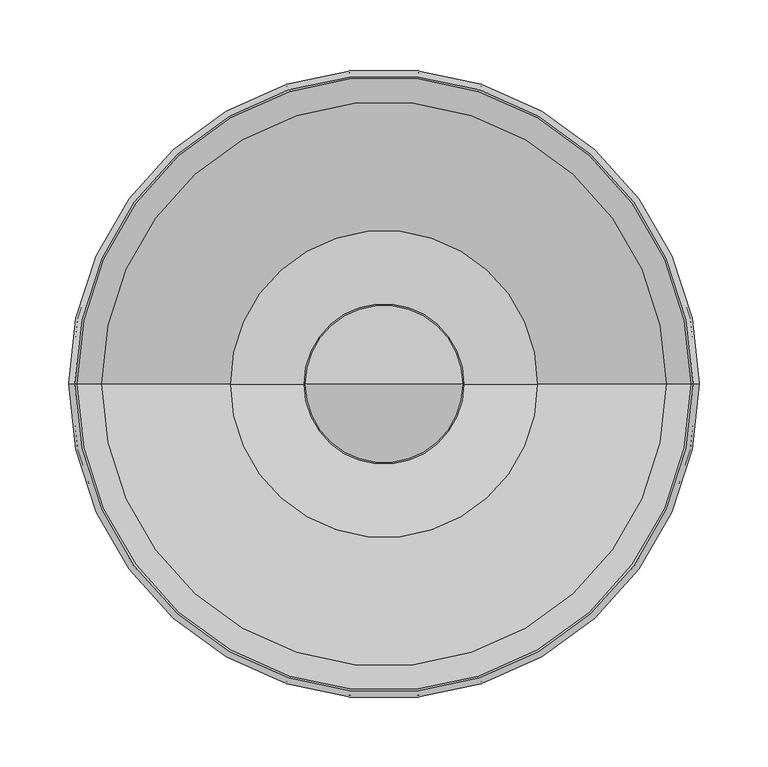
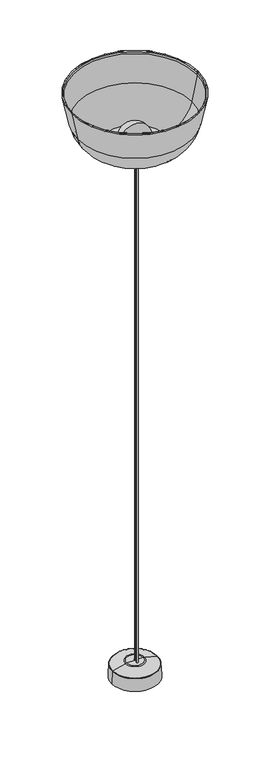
"""IFC4 building model written with IfcOpenShell, lengths in millimetres: light fixture geometry, RBW-Dram-Pendant : DR-M-PC."""

import ifcopenshell
import ifcopenshell.guid

model = None  # the IFC model being written
_history = None  # IfcOwnerHistory: only IFC2X3 demands one
_inside = {}  # id of a spatial element -> (the spatial element, [elements in it])
_under = {}  # id of a project, library or spatial element -> (it, [spatial elements below it])
_declared = {}  # id of a project -> (the project, [libraries it declares])
_typed = {}  # id of a type object -> (the type object, [elements of that type])
_made_of = {}  # id of a material, layer set ... -> (it, [elements and type objects made of it])


def new_model(schema):
    """Start an empty IFC model of exactly this schema.

    Asked for "IFC4X3", IfcOpenShell would pick the latest addendum, in which some entities
    have other attributes; the version numbers below select the first issue.
    IFC2X3 requires an IfcOwnerHistory on every rooted entity: one is made here for all.
    """
    global model, _history
    if schema == "IFC4X3":
        model = ifcopenshell.file(schema_version=(4, 3, 0, 0))
    else:
        model = ifcopenshell.file(schema=schema)
    _inside.clear()
    _under.clear()
    _declared.clear()
    _typed.clear()
    _made_of.clear()
    _history = None
    if model.schema == "IFC2X3":
        org = make("IfcOrganization", Name="unknown")
        user = make(
            "IfcPersonAndOrganization",
            ThePerson=make("IfcPerson", FamilyName="unknown"),
            TheOrganization=org,
        )
        app = make(
            "IfcApplication",
            ApplicationDeveloper=org,
            Version="unknown",
            ApplicationFullName="unknown",
            ApplicationIdentifier="unknown",
        )
        _history = make(
            "IfcOwnerHistory",
            OwningUser=user,
            OwningApplication=app,
            ChangeAction="ADDED",
            CreationDate=0,
        )
    return model


def make(cls, **values):
    """One entity of the class cls with the attributes given. An attribute that is None is left unset."""
    return model.create_entity(
        cls, **{name: value for name, value in values.items() if value is not None}
    )


def rooted(cls, **values):
    """An entity with a GlobalId (a new one), such as an element, a storey or a relation."""
    return make(cls, GlobalId=ifcopenshell.guid.new(), OwnerHistory=_history, **values)


def si_unit(unit_type, name, prefix=None):
    """IfcSIUnit, for example si_unit("LENGTHUNIT", "METRE", prefix="MILLI")."""
    return make("IfcSIUnit", UnitType=unit_type, Prefix=prefix, Name=name)


def assignment(units):
    """IfcUnitAssignment: the units of a project."""
    return None if units is None else make("IfcUnitAssignment", Units=units)


def point(xyz):
    """IfcCartesianPoint."""
    return None if xyz is None else make("IfcCartesianPoint", Coordinates=xyz)


def direction(xyz):
    """IfcDirection."""
    return None if xyz is None else make("IfcDirection", DirectionRatios=xyz)


def frame(location, z_axis=None, x_axis=None):
    """IfcAxis2Placement3D, a coordinate frame: its origin and axes. An axis left out is left unset."""
    return make(
        "IfcAxis2Placement3D",
        Location=point(location),
        Axis=direction(z_axis),
        RefDirection=direction(x_axis),
    )


def frame_2d(location, x_axis=None):
    """IfcAxis2Placement2D, a coordinate frame in the plane: its origin and x axis."""
    return make(
        "IfcAxis2Placement2D", Location=point(location), RefDirection=direction(x_axis)
    )


def origin():
    """The frame at (0, 0, 0) with its axes left unset."""
    return frame((0.0, 0.0, 0.0))


def place(relative_to, where):
    """IfcLocalPlacement: puts the frame where relative to a parent placement (None: the world)."""
    return make(
        "IfcLocalPlacement", PlacementRelTo=relative_to, RelativePlacement=where
    )


def context(
    kind, dimensions, precision=None, world=None, true_north=None, identifier=None
):
    """IfcGeometricRepresentationContext, for example the 3D "Model" context."""
    return make(
        "IfcGeometricRepresentationContext",
        ContextIdentifier=identifier,
        ContextType=kind,
        CoordinateSpaceDimension=dimensions,
        Precision=precision,
        WorldCoordinateSystem=world,
        TrueNorth=true_north,
    )


def project(units=None, contexts=None):
    """IfcProject with its units and contexts."""
    return rooted(
        "IfcProject",
        Name="project",
        RepresentationContexts=contexts,
        UnitsInContext=assignment(units),
    )


def spatial(cls, under=None, at=None, **own):
    """A site, building, storey or space (cls), placed at a placement, below another one or the project."""
    s = rooted(cls, ObjectPlacement=at, **own)
    if under is not None:
        _under.setdefault(under.id(), (under, []))[1].append(s)
    return s


def polyline(points):
    """IfcPolyline through the points."""
    return make("IfcPolyline", Points=[point(p) for p in points])


def circle_curve(where, radius):
    """IfcCircle in the frame where."""
    return make("IfcCircle", Position=where, Radius=radius)


def ellipse_curve(where, semi_axis1, semi_axis2):
    """IfcEllipse in the frame where."""
    return make(
        "IfcEllipse", Position=where, SemiAxis1=semi_axis1, SemiAxis2=semi_axis2
    )


def trimmed(basis, trim1, trim2, sense, master):
    """IfcTrimmedCurve: the piece of a basis curve between two trims."""
    return make(
        "IfcTrimmedCurve",
        BasisCurve=basis,
        Trim1=trim1,
        Trim2=trim2,
        SenseAgreement=sense,
        MasterRepresentation=master,
    )


def segment(curve, same_sense, transition):
    """IfcCompositeCurveSegment."""
    return make(
        "IfcCompositeCurveSegment",
        Transition=transition,
        SameSense=same_sense,
        ParentCurve=curve,
    )


def composite_curve(segments, self_intersect=None):
    """IfcCompositeCurve: segments joined end to end."""
    return make("IfcCompositeCurve", Segments=segments, SelfIntersect=self_intersect)


def outline(outer, holes=None, kind="AREA"):
    """IfcArbitraryClosedProfileDef: a profile drawn as a closed curve; with holes, ...WithVoids."""
    if holes is None:
        return make("IfcArbitraryClosedProfileDef", ProfileType=kind, OuterCurve=outer)
    return make(
        "IfcArbitraryProfileDefWithVoids",
        ProfileType=kind,
        OuterCurve=outer,
        InnerCurves=holes,
    )


def extrude(swept, where, along, depth):
    """IfcExtrudedAreaSolid: the profile swept, set in the frame where, extruded along a direction by depth."""
    return make(
        "IfcExtrudedAreaSolid",
        SweptArea=swept,
        Position=where,
        ExtrudedDirection=direction(along),
        Depth=depth,
    )


def shape(context_of_items, identifier, shape_type, items):
    """IfcShapeRepresentation: the items that make up one representation, for example the "Body"."""
    return make(
        "IfcShapeRepresentation",
        ContextOfItems=context_of_items,
        RepresentationIdentifier=identifier,
        RepresentationType=shape_type,
        Items=items,
    )


def source(mapping_origin, context_of_items, identifier, shape_type, items):
    """IfcRepresentationMap: a shape defined once, which mapped items show again and again."""
    return make(
        "IfcRepresentationMap",
        MappingOrigin=mapping_origin,
        MappedRepresentation=shape(context_of_items, identifier, shape_type, items),
    )


def transform(
    local_origin,
    x_axis=None,
    y_axis=None,
    z_axis=None,
    scale=None,
    scale2=None,
    scale3=None,
    uniform=True,
):
    """IfcCartesianTransformationOperator3D, or its non-uniform kind. x_axis, y_axis, z_axis: its Axis1, 2, 3."""
    if uniform:
        return make(
            "IfcCartesianTransformationOperator3D",
            Axis1=direction(x_axis),
            Axis2=direction(y_axis),
            LocalOrigin=point(local_origin),
            Scale=scale,
            Axis3=direction(z_axis),
        )
    return make(
        "IfcCartesianTransformationOperator3DnonUniform",
        Axis1=direction(x_axis),
        Axis2=direction(y_axis),
        LocalOrigin=point(local_origin),
        Scale=scale,
        Axis3=direction(z_axis),
        Scale2=scale2,
        Scale3=scale3,
    )


def mapped(mapping_source, mapping_target):
    """IfcMappedItem: shows the shape of a source again, moved by a transform."""
    return make(
        "IfcMappedItem", MappingSource=mapping_source, MappingTarget=mapping_target
    )


def made_of(thing, what):
    """Note that an element or type object is made of a material, layer set ...; save() writes the relation."""
    if what is not None:
        _made_of.setdefault(what.id(), (what, []))[1].append(thing)
    return thing


def element(
    cls,
    number,
    at=None,
    inside=None,
    cuts=None,
    type_object=None,
    material=None,
    context=None,
    identifier="Body",
    shape_type=None,
    held_by="IfcProductDefinitionShape",
    body=None,
    shapes=None,
    **own,
):
    """One element of the class cls, such as IfcWall. Its Tag is "e" and its number.

    at: its placement. inside: the storey or other place that contains it. cuts: it is an
    opening in that element (IfcRelVoidsElement). A single representation is given by context,
    identifier, shape_type and body (its items); several are given by shapes. held_by: the class
    of the entity that holds the representations. save() writes the other relations.
    """
    e = rooted(cls, Tag="e%d" % number, ObjectPlacement=at, **own)
    if body is not None:
        shapes = [shape(context, identifier, shape_type, body)]
    if shapes is not None:
        e.Representation = make(held_by, Representations=shapes)
    if inside is not None:
        _inside.setdefault(inside.id(), (inside, []))[1].append(e)
    if cuts is not None:
        rooted(
            "IfcRelVoidsElement", RelatingBuildingElement=cuts, RelatedOpeningElement=e
        )
    if type_object is not None:
        _typed.setdefault(type_object.id(), (type_object, []))[1].append(e)
    return made_of(e, material)


def aggregate(whole, parts):
    """IfcRelAggregates: a whole, such as a stair, and the parts it consists of."""
    return rooted("IfcRelAggregates", RelatingObject=whole, RelatedObjects=parts)


def save(model, path):
    """Write the relations noted so far, then the file.

    IfcRelAggregates (storeys below a building ...), IfcRelContainedInSpatialStructure (elements
    in a storey), IfcRelDefinesByType, IfcRelAssociatesMaterial and IfcRelDeclares: one each for
    every whole, place, type object, material and project.
    """
    for whole, parts in _under.values():
        aggregate(whole, parts)
    for where, things in _inside.values():
        rooted(
            "IfcRelContainedInSpatialStructure",
            RelatedElements=things,
            RelatingStructure=where,
        )
    for kind, things in _typed.values():
        rooted("IfcRelDefinesByType", RelatedObjects=things, RelatingType=kind)
    for what, things in _made_of.values():
        rooted("IfcRelAssociatesMaterial", RelatedObjects=things, RelatingMaterial=what)
    for by, libraries in _declared.values():
        rooted("IfcRelDeclares", RelatingContext=by, RelatedDefinitions=libraries)
    model.write(path)


def plane_surface(at):
    """IfcPlane: the flat surface through the origin of the frame at, square to its z axis."""
    return make("IfcPlane", Position=at)


def cylinder_surface(at, radius):
    """IfcCylindricalSurface: all points at the distance radius from the z axis of the frame at."""
    return make("IfcCylindricalSurface", Position=at, Radius=radius)


def revolved_surface(curve, axis_point, axis_direction):
    """IfcSurfaceOfRevolution: the curve turned about the line through axis_point along axis_direction."""
    return make(
        "IfcSurfaceOfRevolution",
        SweptCurve=make("IfcArbitraryOpenProfileDef", ProfileType="CURVE", Curve=curve),
        AxisPosition=make("IfcAxis1Placement", Location=point(axis_point), Axis=direction(axis_direction)),
    )


def advanced_brep(points, edges, surfaces, faces):
    """IfcAdvancedBrep: a solid bounded by faces that lie on surfaces and meet in shared edges.

    An edge is (start, end): straight between two places in points (the first is 0);
    or (start, end, curve); or (start, end, curve, False) where it runs against its curve.
    A face is (place in surfaces, loops), or (place, loops, False) where it looks against
    its surface's normal. A loop lists edges by number (the first is 1), with a minus sign
    where the edge is run from its end to its start. The first loop is the outer one.
    """
    corners = [point(p) for p in points]
    vertices = [make("IfcVertexPoint", VertexGeometry=c) for c in corners]
    made = []
    for start, end, *more in edges:
        made.append(
            make(
                "IfcEdgeCurve",
                EdgeStart=vertices[start],
                EdgeEnd=vertices[end],
                EdgeGeometry=more[0] if more else make("IfcPolyline", Points=[corners[start], corners[end]]),
                SameSense=more[1] if len(more) > 1 else True,
            )
        )
    hull = []
    for where, loops, *sense in faces:
        bounds = []
        for j, loop in enumerate(loops):
            ring = [make("IfcOrientedEdge", EdgeElement=made[abs(k) - 1], Orientation=k > 0) for k in loop]
            bounds.append(
                make(
                    "IfcFaceOuterBound" if j == 0 else "IfcFaceBound",
                    Bound=make("IfcEdgeLoop", EdgeList=ring),
                    Orientation=True,
                )
            )
        hull.append(make("IfcAdvancedFace", Bounds=bounds, FaceSurface=surfaces[where], SameSense=sense[0] if sense else True))
    return make("IfcAdvancedBrep", Outer=make("IfcClosedShell", CfsFaces=hull))


def light_fixture_be809786(model_context):
    return source(origin(), model_context, "Body", "SolidModel", [
        advanced_brep(
        [(-45.0, 3.5438286, 1993.4185711), (45.0, 3.5438286, 1993.4185711), (0.0, 3.5438286, 1993.4185711), (-45.0, 3.5438286, 2011.9185711), (45.0, 3.5438286, 2011.9185711), (0.0, 3.5438286, 2011.9185711)],
        [
            (0, 1, circle_curve(frame((0.0, 3.5438286, 1993.4185711), z_axis=(0.0, 0.0, -1.0), x_axis=(1.0, 0.0, 0.0)), 45.0)),
            (1, 2),
            (2, 0),
            (1, 0, circle_curve(frame((0.0, 3.5438286, 1993.4185711), z_axis=(0.0, 0.0, -1.0), x_axis=(1.0, 0.0, 0.0)), 45.0)),
            (3, 4, circle_curve(frame((0.0, 3.5438286, 2011.9185711), z_axis=(0.0, 0.0, -1.0), x_axis=(1.0, 0.0, 0.0)), 45.0)),
            (4, 1),
            (0, 3),
            (4, 3, circle_curve(frame((0.0, 3.5438286, 2011.9185711), z_axis=(0.0, 0.0, -1.0), x_axis=(1.0, 0.0, 0.0)), 45.0)),
            (5, 4),
            (3, 5),
        ],
        [
            plane_surface(frame((0.0, 3.5438286, 1993.4185711), z_axis=(0.0, 0.0, -1.0), x_axis=(1.0, 0.0, 0.0))),
            cylinder_surface(frame((0.0, 3.5438286, 2032.0), z_axis=(0.0, 0.0, 1.0), x_axis=(1.0, 0.0, 0.0)), 45.0),
            plane_surface(frame((0.0, 3.5438286, 2011.9185711), z_axis=(0.0, 0.0, 1.0), x_axis=(1.0, 0.0, 0.0))),
        ],
        [
            (0, [[1, 2, 3]]),
            (0, [[4, -3, -2]]),
            (1, [[5, 6, -1, 7]]),
            (1, [[8, -7, -4, -6]]),
            (2, [[9, -5, 10]]),
            (2, [[-10, -8, -9]]),
        ],
    ),
        advanced_brep(
        [(-45.0, 3.5438286, 2011.9185711), (45.0, 3.5438286, 2011.9185711), (0.0, 3.5438286, 2011.9185711), (0.0, 3.5438286, 2105.9297358)],
        [
            (0, 1, circle_curve(frame((0.0, 3.5438286, 2011.9185711), z_axis=(0.0, 0.0, -1.0), x_axis=(1.0, 0.0, 0.0)), 45.0)),
            (1, 2),
            (2, 0),
            (1, 0, circle_curve(frame((0.0, 3.5438286, 2011.9185711), z_axis=(0.0, 0.0, -1.0), x_axis=(1.0, 0.0, 0.0)), 45.0)),
            (3, 1, circle_curve(frame((-1.2656737, 3.5438286, 2047.5483203), z_axis=(0.0, 1.0, 0.0), x_axis=(1.0, 0.0, 0.0)), 58.3951333)),
            (0, 3, circle_curve(frame((1.2656737, 3.5438286, 2047.5483203), z_axis=(0.0, 1.0, 0.0), x_axis=(-1.0, 0.0, 0.0)), 58.3951333)),
        ],
        [
            plane_surface(frame((0.0, 3.5438286, 2011.9185711), z_axis=(0.0, 0.0, -1.0), x_axis=(1.0, 0.0, 0.0))),
            revolved_surface(trimmed(ellipse_curve(frame((-1.2656737, 3.5438286, 2047.5483203), z_axis=(0.0, -1.0, 0.0), x_axis=(1.0, 0.0, 0.0)), 58.3951333, 58.3951333), [point((45.0, 3.5438286, 2011.9185711))], [point((0.0, 3.5438286, 2105.9297358))], True, "CARTESIAN"), (0.0, 3.5438286, 2129.3880931), (0.0, 0.0, 1.0)),
        ],
        [
            (0, [[1, 2, 3]]),
            (0, [[4, -3, -2]]),
            (1, [[5, -1, 6]]),
            (1, [[-6, -4, -5]]),
        ],
    ),
        advanced_brep(
        [(-42.6293897, 3.5438286, 1991.9185711), (42.6293897, 3.5438286, 1991.9185711), (0.0, 3.5438286, 1991.9185711), (-44.9909223, 3.5438286, 1983.1052113), (44.9909223, 3.5438286, 1983.1052113), (-50.0345682, 3.5438286, 1983.5464732), (50.0345682, 3.5438286, 1983.5464732), (-51.3804833, 3.5438286, 1998.9303532), (51.3804833, 3.5438286, 1998.9303532), (-58.6992143, 3.5438286, 2007.7884541), (58.6992144, 3.5438286, 2007.7884541), (-111.7063125, 3.5438286, 2022.0239769), (111.7063125, 3.5438286, 2022.0239769), (-224.2988689, 3.5438286, 2223.617487), (224.298869, 3.5438286, 2223.617487), (228.6104762, 3.5438286, 2222.7635861), (-228.6104762, 3.5438286, 2222.7635861), (-222.8739075, 3.5438286, 2216.9135706), (222.8739075, 3.5438286, 2216.9135706), (-224.4267168, 3.5438286, 2216.5835108), (224.4267168, 3.5438286, 2216.5835108), (-225.8676309, 3.5438286, 2223.3624783), (225.8676309, 3.5438286, 2223.3624783), (-58.265059, 3.5438286, 2009.3154332), (58.265059, 3.5438286, 2009.3154332), (111.3113247, 3.5438286, 2023.5615646), (-111.3113247, 3.5438286, 2023.5615646), (-49.7990242, 3.5438286, 1999.068713), (49.7990242, 3.5438286, 1999.068713), (-49.3123561, 3.5438286, 1993.5060711), (49.3123561, 3.5438286, 1993.5060711), (0.0, 3.5438286, 1993.5060711), (-206.2532089, 3.5438286, 2117.5679091), (206.2532089, 3.5438286, 2117.5679091), (204.7129868, 3.5438286, 2117.9524505), (-204.7129868, 3.5438286, 2117.9524505), (227.0623824, 3.5438286, 2223.12587), (-227.0623824, 3.5438286, 2223.12587)],
        [
            (0, 1, circle_curve(frame((0.0, 3.5438286, 1991.9185711), z_axis=(0.0, 0.0, -1.0), x_axis=(1.0, 0.0, 0.0)), 42.6293897)),
            (1, 2),
            (2, 0),
            (1, 0, circle_curve(frame((0.0, 3.5438286, 1991.9185711), z_axis=(0.0, 0.0, -1.0), x_axis=(1.0, 0.0, 0.0)), 42.6293897)),
            (3, 4, circle_curve(frame((0.0, 3.5438286, 1983.1052113), z_axis=(0.0, 0.0, -1.0), x_axis=(1.0, 0.0, 0.0)), 44.9909223)),
            (4, 1),
            (0, 3),
            (4, 3, circle_curve(frame((0.0, 3.5438286, 1983.1052113), z_axis=(0.0, 0.0, -1.0), x_axis=(1.0, 0.0, 0.0)), 44.9909223)),
            (5, 6, circle_curve(frame((0.0, 3.5438286, 1983.5464732), z_axis=(0.0, 0.0, -1.0), x_axis=(1.0, 0.0, 0.0)), 50.0345682)),
            (6, 4, circle_curve(frame((47.4738421, 3.5438286, 1983.7705077), z_axis=(0.0, 1.0, 0.0), x_axis=(1.0, 0.0, 0.0)), 2.5705077)),
            (3, 5, circle_curve(frame((-47.4738421, 3.5438286, 1983.7705077), z_axis=(0.0, 1.0, 0.0), x_axis=(-1.0, 0.0, 0.0)), 2.5705077)),
            (6, 5, circle_curve(frame((0.0, 3.5438286, 1983.5464732), z_axis=(0.0, 0.0, -1.0), x_axis=(1.0, 0.0, 0.0)), 50.0345682)),
            (7, 8, circle_curve(frame((0.0, 3.5438286, 1998.9303532), z_axis=(0.0, 0.0, -1.0), x_axis=(1.0, 0.0, 0.0)), 51.3804833)),
            (8, 6),
            (5, 7),
            (8, 7, circle_curve(frame((0.0, 3.5438286, 1998.9303532), z_axis=(0.0, 0.0, -1.0), x_axis=(1.0, 0.0, 0.0)), 51.3804833)),
            (9, 10, circle_curve(frame((0.0, 3.5438286, 2007.7884541), z_axis=(0.0, 0.0, -1.0), x_axis=(1.0, 0.0, 0.0)), 58.6992143)),
            (10, 8, circle_curve(frame((61.4687219, 3.5438286, 1998.0477467), z_axis=(0.0, -1.0, 0.0), x_axis=(1.0, 0.0, 0.0)), 10.126774)),
            (7, 9, circle_curve(frame((-61.4687219, 3.5438286, 1998.0477467), z_axis=(0.0, -1.0, 0.0), x_axis=(-1.0, 0.0, 0.0)), 10.126774)),
            (10, 9, circle_curve(frame((0.0, 3.5438286, 2007.7884541), z_axis=(0.0, 0.0, -1.0), x_axis=(1.0, 0.0, 0.0)), 58.6992143)),
            (11, 12, circle_curve(frame((0.0, 3.5438286, 2022.0239769), z_axis=(0.0, 0.0, -1.0), x_axis=(1.0, 0.0, 0.0)), 111.7063125)),
            (12, 10, circle_curve(frame((571.1922491, 3.5438286, 205.2858243), z_axis=(0.0, -1.0, 0.0), x_axis=(1.0, 0.0, 0.0)), 1873.9436601)),
            (9, 11, circle_curve(frame((-571.1922491, 3.5438286, 205.2858243), z_axis=(0.0, -1.0, 0.0), x_axis=(-1.0, 0.0, 0.0)), 1873.9436601)),
            (12, 11, circle_curve(frame((0.0, 3.5438286, 2022.0239769), z_axis=(0.0, 0.0, -1.0), x_axis=(1.0, 0.0, 0.0)), 111.7063125)),
            (13, 14, circle_curve(frame((0.0, 3.5438286, 2223.617487), z_axis=(0.0, 0.0, -1.0), x_axis=(1.0, 0.0, 0.0)), 224.298869)),
            (14, 15, circle_curve(frame((226.448728, 3.5438286, 2223.1605203), z_axis=(0.0, 1.0, 0.0), x_axis=(1.0, 0.0, 0.0)), 2.1978881)),
            (15, 16, circle_curve(frame((0.0, 3.5438286, 2222.7635861), z_axis=(0.0, 0.0, 1.0), x_axis=(1.0, 0.0, 0.0)), 228.6104762)),
            (16, 13, circle_curve(frame((-226.4487279, 3.5438286, 2223.1605203), z_axis=(0.0, 1.0, 0.0), x_axis=(-1.0, 0.0, 0.0)), 2.1978881)),
            (14, 13, circle_curve(frame((0.0, 3.5438286, 2223.617487), z_axis=(0.0, 0.0, -1.0), x_axis=(1.0, 0.0, 0.0)), 224.298869)),
            (16, 15, circle_curve(frame((0.0, 3.5438286, 2222.7635861), z_axis=(0.0, 0.0, 1.0), x_axis=(1.0, 0.0, 0.0)), 228.6104762)),
            (17, 18, circle_curve(frame((0.0, 3.5438286, 2216.9135706), z_axis=(0.0, 0.0, -1.0), x_axis=(1.0, 0.0, 0.0)), 222.8739075)),
            (18, 14),
            (13, 17),
            (18, 17, circle_curve(frame((0.0, 3.5438286, 2216.9135706), z_axis=(0.0, 0.0, -1.0), x_axis=(1.0, 0.0, 0.0)), 222.8739075)),
            (19, 20, circle_curve(frame((0.0, 3.5438286, 2216.5835108), z_axis=(0.0, 0.0, -1.0), x_axis=(1.0, 0.0, 0.0)), 224.4267168)),
            (20, 18),
            (17, 19),
            (20, 19, circle_curve(frame((0.0, 3.5438286, 2216.5835108), z_axis=(0.0, 0.0, -1.0), x_axis=(1.0, 0.0, 0.0)), 224.4267168)),
            (21, 22, circle_curve(frame((0.0, 3.5438286, 2223.3624783), z_axis=(0.0, 0.0, -1.0), x_axis=(1.0, 0.0, 0.0)), 225.8676309)),
            (22, 20),
            (19, 21),
            (22, 21, circle_curve(frame((0.0, 3.5438286, 2223.3624783), z_axis=(0.0, 0.0, -1.0), x_axis=(1.0, 0.0, 0.0)), 225.8676309)),
            (23, 24, circle_curve(frame((0.0, 3.5438286, 2009.3154332), z_axis=(0.0, 0.0, -1.0), x_axis=(1.0, 0.0, 0.0)), 58.265059)),
            (24, 25, circle_curve(frame((571.1922491, 3.5438286, 205.2858243), z_axis=(0.0, 1.0, 0.0), x_axis=(1.0, 0.0, 0.0)), 1875.5311601)),
            (25, 26, circle_curve(frame((0.0, 3.5438286, 2023.5615646), z_axis=(0.0, 0.0, 1.0), x_axis=(1.0, 0.0, 0.0)), 111.3113247)),
            (26, 23, circle_curve(frame((-571.1922491, 3.5438286, 205.2858243), z_axis=(0.0, 1.0, 0.0), x_axis=(-1.0, 0.0, 0.0)), 1875.5311601)),
            (24, 23, circle_curve(frame((0.0, 3.5438286, 2009.3154332), z_axis=(0.0, 0.0, -1.0), x_axis=(1.0, 0.0, 0.0)), 58.265059)),
            (26, 25, circle_curve(frame((0.0, 3.5438286, 2023.5615646), z_axis=(0.0, 0.0, 1.0), x_axis=(1.0, 0.0, 0.0)), 111.3113247)),
            (27, 28, circle_curve(frame((0.0, 3.5438286, 1999.068713), z_axis=(0.0, 0.0, -1.0), x_axis=(1.0, 0.0, 0.0)), 49.7990242)),
            (28, 24, circle_curve(frame((61.4687219, 3.5438286, 1998.0477467), z_axis=(0.0, 1.0, 0.0), x_axis=(1.0, 0.0, 0.0)), 11.714274)),
            (23, 27, circle_curve(frame((-61.4687219, 3.5438286, 1998.0477467), z_axis=(0.0, 1.0, 0.0), x_axis=(-1.0, 0.0, 0.0)), 11.714274)),
            (28, 27, circle_curve(frame((0.0, 3.5438286, 1999.068713), z_axis=(0.0, 0.0, -1.0), x_axis=(1.0, 0.0, 0.0)), 49.7990242)),
            (29, 30, circle_curve(frame((0.0, 3.5438286, 1993.5060711), z_axis=(0.0, 0.0, -1.0), x_axis=(1.0, 0.0, 0.0)), 49.3123561)),
            (30, 28),
            (27, 29),
            (30, 29, circle_curve(frame((0.0, 3.5438286, 1993.5060711), z_axis=(0.0, 0.0, -1.0), x_axis=(1.0, 0.0, 0.0)), 49.3123561)),
            (31, 30),
            (29, 31),
            (32, 33, circle_curve(frame((0.0, 3.5438286, 2117.5679091), z_axis=(0.0, 0.0, -1.0), x_axis=(1.0, 0.0, 0.0)), 206.2532089)),
            (33, 12, circle_curve(frame((79.8092077, 3.5438286, 2148.1403223), z_axis=(0.0, 1.0, 0.0), x_axis=(1.0, 0.0, 0.0)), 130.0875009)),
            (11, 32, circle_curve(frame((-79.8092077, 3.5438286, 2148.1403223), z_axis=(0.0, 1.0, 0.0), x_axis=(-1.0, 0.0, 0.0)), 130.0875009)),
            (33, 32, circle_curve(frame((0.0, 3.5438286, 2117.5679091), z_axis=(0.0, 0.0, -1.0), x_axis=(1.0, 0.0, 0.0)), 206.2532089)),
            (25, 34, circle_curve(frame((79.8004879, 3.5438286, 2148.149011), z_axis=(0.0, -1.0, 0.0), x_axis=(1.0, 0.0, 0.0)), 128.5105624)),
            (34, 35, circle_curve(frame((0.0, 3.5438286, 2117.9524505), z_axis=(0.0, 0.0, 1.0), x_axis=(1.0, 0.0, 0.0)), 204.7129868)),
            (35, 26, circle_curve(frame((-79.8004879, 3.5438286, 2148.149011), z_axis=(0.0, -1.0, 0.0), x_axis=(-1.0, 0.0, 0.0)), 128.5105624)),
            (35, 34, circle_curve(frame((0.0, 3.5438286, 2117.9524505), z_axis=(0.0, 0.0, 1.0), x_axis=(1.0, 0.0, 0.0)), 204.7129868)),
            (15, 33, circle_curve(frame((-1672.7699069, 3.5438286, 2571.8897489), z_axis=(0.0, 1.0, 0.0), x_axis=(1.0, 0.0, 0.0)), 1933.1674019)),
            (32, 16, circle_curve(frame((1672.7699069, 3.5438286, 2571.8897489), z_axis=(0.0, 1.0, 0.0), x_axis=(-1.0, 0.0, 0.0)), 1933.1674019)),
            (34, 36, circle_curve(frame((-1674.8669914, 3.5438286, 2572.3253201), z_axis=(0.0, -1.0, 0.0), x_axis=(1.0, 0.0, 0.0)), 1933.7206621)),
            (36, 37, circle_curve(frame((0.0, 3.5438286, 2223.12587), z_axis=(0.0, 0.0, 1.0), x_axis=(1.0, 0.0, 0.0)), 227.0623824)),
            (37, 35, circle_curve(frame((1674.8669914, 3.5438286, 2572.3253201), z_axis=(0.0, -1.0, 0.0), x_axis=(-1.0, 0.0, 0.0)), 1933.7206621)),
            (37, 36, circle_curve(frame((0.0, 3.5438286, 2223.12587), z_axis=(0.0, 0.0, 1.0), x_axis=(1.0, 0.0, 0.0)), 227.0623824)),
            (36, 22, circle_curve(frame((226.4633586, 3.5438286, 2223.2358524), z_axis=(0.0, -1.0, 0.0), x_axis=(1.0, 0.0, 0.0)), 0.6090367)),
            (21, 37, circle_curve(frame((-226.4633586, 3.5438286, 2223.2358524), z_axis=(0.0, -1.0, 0.0), x_axis=(-1.0, 0.0, 0.0)), 0.6090367)),
        ],
        [
            plane_surface(frame((0.0, 3.5438286, 1991.9185711), z_axis=(0.0, 0.0, -1.0), x_axis=(1.0, 0.0, 0.0))),
            revolved_surface(polyline([(42.6293897, 3.5438286, 1991.9185711), (44.9909223, 3.5438286, 1983.1052113)]), (0.0, 3.5438286, 2079.065391), (0.0, 0.0, 1.0)),
            revolved_surface(trimmed(ellipse_curve(frame((47.4738421, 3.5438286, 1983.7705077), z_axis=(0.0, -1.0, 0.0), x_axis=(1.0, 0.0, 0.0)), 2.5705077, 2.5705077), [point((44.9909223, 3.5438286, 1983.1052113))], [point((50.0345682, 3.5438286, 1983.5464732))], True, "CARTESIAN"), (0.0, 3.5438286, 2079.065391), (0.0, 0.0, 1.0)),
            revolved_surface(polyline([(50.0345682, 3.5438286, 1983.5464732), (51.3804833, 3.5438286, 1998.9303532)]), (0.0, 3.5438286, 2079.065391), (0.0, 0.0, 1.0)),
            revolved_surface(trimmed(ellipse_curve(frame((61.4687219, 3.5438286, 1998.0477467), z_axis=(0.0, 1.0, 0.0), x_axis=(1.0, 0.0, 0.0)), 10.126774, 10.126774), [point((51.3804833, 3.5438286, 1998.9303532))], [point((58.6992144, 3.5438286, 2007.7884541))], True, "CARTESIAN"), (0.0, 3.5438286, 2079.065391), (0.0, 0.0, 1.0)),
            revolved_surface(trimmed(ellipse_curve(frame((571.1922491, 3.5438286, 205.2858243), z_axis=(0.0, 1.0, 0.0), x_axis=(1.0, 0.0, 0.0)), 1873.9436601, 1873.9436601), [point((58.6992144, 3.5438286, 2007.7884541))], [point((111.7063125, 3.5438286, 2022.0239769))], True, "CARTESIAN"), (0.0, 3.5438286, 2079.065391), (0.0, 0.0, 1.0)),
            revolved_surface(trimmed(ellipse_curve(frame((226.448728, 3.5438286, 2223.1605203), z_axis=(0.0, -1.0, 0.0), x_axis=(1.0, 0.0, 0.0)), 2.1978881, 2.1978881), [point((228.6104762, 3.5438286, 2222.7635861))], [point((224.298869, 3.5438286, 2223.617487))], True, "CARTESIAN"), (0.0, 3.5438286, 2079.065391), (0.0, 0.0, 1.0)),
            revolved_surface(polyline([(224.298869, 3.5438286, 2223.617487), (222.8739075, 3.5438286, 2216.9135706)]), (0.0, 3.5438286, 2079.065391), (0.0, 0.0, 1.0)),
            revolved_surface(polyline([(222.8739075, 3.5438286, 2216.9135706), (224.4267168, 3.5438286, 2216.5835108)]), (0.0, 3.5438286, 2079.065391), (0.0, 0.0, 1.0)),
            revolved_surface(polyline([(224.4267168, 3.5438286, 2216.5835108), (225.8676309, 3.5438286, 2223.3624783)]), (0.0, 3.5438286, 2079.065391), (0.0, 0.0, 1.0)),
            revolved_surface(trimmed(ellipse_curve(frame((571.1922491, 3.5438286, 205.2858243), z_axis=(0.0, -1.0, 0.0), x_axis=(1.0, 0.0, 0.0)), 1875.5311601, 1875.5311601), [point((111.3113247, 3.5438286, 2023.5615646))], [point((58.265059, 3.5438286, 2009.3154332))], True, "CARTESIAN"), (0.0, 3.5438286, 2079.065391), (0.0, 0.0, 1.0)),
            revolved_surface(trimmed(ellipse_curve(frame((61.4687219, 3.5438286, 1998.0477467), z_axis=(0.0, -1.0, 0.0), x_axis=(1.0, 0.0, 0.0)), 11.714274, 11.714274), [point((58.265059, 3.5438286, 2009.3154332))], [point((49.7990242, 3.5438286, 1999.068713))], True, "CARTESIAN"), (0.0, 3.5438286, 2079.065391), (0.0, 0.0, 1.0)),
            revolved_surface(polyline([(49.7990242, 3.5438286, 1999.068713), (49.3123561, 3.5438286, 1993.5060711)]), (0.0, 3.5438286, 2079.065391), (0.0, 0.0, 1.0)),
            plane_surface(frame((0.0, 3.5438286, 1993.5060711), z_axis=(0.0, 0.0, 1.0), x_axis=(1.0, 0.0, 0.0))),
            revolved_surface(trimmed(ellipse_curve(frame((79.8092077, 3.5438286, 2148.1403223), z_axis=(0.0, -1.0, 0.0), x_axis=(1.0, 0.0, 0.0)), 130.0875009, 130.0875009), [point((111.7063125, 3.5438286, 2022.0239769))], [point((206.2532089, 3.5438286, 2117.5679091))], True, "CARTESIAN"), (0.0, 3.5438286, 2079.065391), (0.0, 0.0, 1.0)),
            revolved_surface(trimmed(ellipse_curve(frame((79.8004879, 3.5438286, 2148.149011), z_axis=(0.0, 1.0, 0.0), x_axis=(1.0, 0.0, 0.0)), 128.5105624, 128.5105624), [point((204.7129868, 3.5438286, 2117.9524505))], [point((111.3113247, 3.5438286, 2023.5615646))], True, "CARTESIAN"), (0.0, 3.5438286, 2079.065391), (0.0, 0.0, 1.0)),
            revolved_surface(trimmed(ellipse_curve(frame((-1672.7699069, 3.5438286, 2571.8897489), z_axis=(0.0, -1.0, 0.0), x_axis=(1.0, 0.0, 0.0)), 1933.1674019, 1933.1674019), [point((206.2532089, 3.5438286, 2117.5679091))], [point((228.6074633, 3.5438286, 2222.7475144))], True, "CARTESIAN"), (0.0, 3.5438286, 2079.065391), (0.0, 0.0, 1.0)),
            revolved_surface(trimmed(ellipse_curve(frame((-1674.8669914, 3.5438286, 2572.3253201), z_axis=(0.0, 1.0, 0.0), x_axis=(1.0, 0.0, 0.0)), 1933.7206621, 1933.7206621), [point((227.0623824, 3.5438286, 2223.12587))], [point((204.7129868, 3.5438286, 2117.9524505))], True, "CARTESIAN"), (0.0, 3.5438286, 2079.065391), (0.0, 0.0, 1.0)),
            revolved_surface(trimmed(ellipse_curve(frame((226.4633586, 3.5438286, 2223.2358524), z_axis=(0.0, 1.0, 0.0), x_axis=(1.0, 0.0, 0.0)), 0.6090367, 0.6090367), [point((225.8676309, 3.5438286, 2223.3624783))], [point((227.0623824, 3.5438286, 2223.12587))], True, "CARTESIAN"), (0.0, 3.5438286, 2079.065391), (0.0, 0.0, 1.0)),
        ],
        [
            (0, [[1, 2, 3]]),
            (0, [[4, -3, -2]]),
            (1, [[5, 6, -1, 7]]),
            (1, [[8, -7, -4, -6]]),
            (2, [[9, 10, -5, 11]]),
            (2, [[12, -11, -8, -10]]),
            (3, [[13, 14, -9, 15]]),
            (3, [[16, -15, -12, -14]]),
            (4, [[17, 18, -13, 19]]),
            (4, [[20, -19, -16, -18]]),
            (5, [[21, 22, -17, 23]]),
            (5, [[24, -23, -20, -22]]),
            (6, [[25, 26, 27, 28]]),
            (6, [[29, -28, 30, -26]]),
            (7, [[31, 32, -25, 33]]),
            (7, [[34, -33, -29, -32]]),
            (8, [[35, 36, -31, 37]]),
            (8, [[38, -37, -34, -36]]),
            (9, [[39, 40, -35, 41]]),
            (9, [[42, -41, -38, -40]]),
            (10, [[43, 44, 45, 46]]),
            (10, [[47, -46, 48, -44]]),
            (11, [[49, 50, -43, 51]]),
            (11, [[52, -51, -47, -50]]),
            (12, [[53, 54, -49, 55]]),
            (12, [[56, -55, -52, -54]]),
            (13, [[57, -53, 58]]),
            (13, [[-58, -56, -57]]),
            (14, [[59, 60, -21, 61]]),
            (14, [[62, -61, -24, -60]]),
            (15, [[-45, 63, 64, 65]]),
            (15, [[-48, -65, 66, -63]]),
            (16, [[-27, 67, -59, 68]]),
            (16, [[-30, -68, -62, -67]]),
            (17, [[-64, 69, 70, 71]]),
            (17, [[-66, -71, 72, -69]]),
            (18, [[-70, 73, -39, 74]]),
            (18, [[-72, -74, -42, -73]]),
        ],
    ),
        advanced_brep(
        [(-1.9558002, 3.5438286, 60.1756874), (1.9558002, 3.5438286, 60.1756874), (0.0, 3.5438286, 60.1756874), (-1.9558002, 3.5438286, 63.6557075), (1.9558002, 3.5438286, 63.6557075), (0.0, 3.5438286, 63.6557075)],
        [
            (0, 1, circle_curve(frame((0.0, 3.5438286, 60.1756874), z_axis=(0.0, 0.0, -1.0), x_axis=(1.0, 0.0, 0.0)), 1.9558002)),
            (1, 2),
            (2, 0),
            (1, 0, circle_curve(frame((0.0, 3.5438286, 60.1756874), z_axis=(0.0, 0.0, -1.0), x_axis=(1.0, 0.0, 0.0)), 1.9558002)),
            (3, 4, circle_curve(frame((0.0, 3.5438286, 63.6557075), z_axis=(0.0, 0.0, -1.0), x_axis=(1.0, 0.0, 0.0)), 1.9558002)),
            (4, 1),
            (0, 3),
            (4, 3, circle_curve(frame((0.0, 3.5438286, 63.6557075), z_axis=(0.0, 0.0, -1.0), x_axis=(1.0, 0.0, 0.0)), 1.9558002)),
            (5, 4),
            (3, 5),
        ],
        [
            plane_surface(frame((0.0, 3.5438286, 60.1756874), z_axis=(0.0, 0.0, -1.0), x_axis=(1.0, 0.0, 0.0))),
            cylinder_surface(frame((0.0, 3.5438286, 54.1910677), z_axis=(0.0, 0.0, 1.0), x_axis=(1.0, 0.0, 0.0)), 1.9558002),
            plane_surface(frame((0.0, 3.5438286, 63.6557075), z_axis=(0.0, 0.0, 1.0), x_axis=(1.0, 0.0, 0.0))),
        ],
        [
            (0, [[1, 2, 3]]),
            (0, [[4, -3, -2]]),
            (1, [[5, 6, -1, 7]]),
            (1, [[8, -7, -4, -6]]),
            (2, [[9, -5, 10]]),
            (2, [[-10, -8, -9]]),
        ],
    ),
        advanced_brep(
        [(-35.5973952, 3.5438286, 59.3750688), (35.5973952, 3.5438286, 59.3750688), (80.1396011, 3.5438286, 47.9188132), (-80.1396011, 3.5438286, 47.9188132), (0.0, 3.5438286, 60.1756874), (29.2704342, 3.5438286, 60.1756874), (-29.2704342, 3.5438286, 60.1756874), (-84.0611662, 3.5438286, 0.0), (84.0611662, 3.5438286, 0.0), (0.0, 3.5438286, 0.0), (-81.8320169, 3.5438286, 45.842229), (81.8320169, 3.5438286, 45.842229)],
        [
            (0, 1, circle_curve(frame((0.0, 3.5438286, 59.3750688), z_axis=(0.0, 0.0, -1.0), x_axis=(1.0, 0.0, 0.0)), 35.5973952)),
            (1, 2),
            (2, 3, circle_curve(frame((0.0, 3.5438286, 47.9188132), z_axis=(0.0, 0.0, 1.0), x_axis=(1.0, 0.0, 0.0)), 80.1396011)),
            (3, 0),
            (1, 0, circle_curve(frame((0.0, 3.5438286, 59.3750688), z_axis=(0.0, 0.0, -1.0), x_axis=(1.0, 0.0, 0.0)), 35.5973952)),
            (3, 2, circle_curve(frame((0.0, 3.5438286, 47.9188132), z_axis=(0.0, 0.0, 1.0), x_axis=(1.0, 0.0, 0.0)), 80.1396011)),
            (4, 5),
            (5, 6, circle_curve(frame((0.0, 3.5438286, 60.1756874), z_axis=(0.0, 0.0, 1.0), x_axis=(1.0, 0.0, 0.0)), 29.2704342)),
            (6, 4),
            (6, 5, circle_curve(frame((0.0, 3.5438286, 60.1756874), z_axis=(0.0, 0.0, 1.0), x_axis=(1.0, 0.0, 0.0)), 29.2704342)),
            (7, 8, circle_curve(frame((0.0, 3.5438286, 0.0), z_axis=(0.0, 0.0, -1.0), x_axis=(1.0, 0.0, 0.0)), 84.0611662)),
            (8, 9),
            (9, 7),
            (8, 7, circle_curve(frame((0.0, 3.5438286, 0.0), z_axis=(0.0, 0.0, -1.0), x_axis=(1.0, 0.0, 0.0)), 84.0611662)),
            (10, 11, circle_curve(frame((0.0, 3.5438286, 45.842229), z_axis=(0.0, 0.0, -1.0), x_axis=(1.0, 0.0, 0.0)), 81.8320169)),
            (11, 8),
            (7, 10),
            (11, 10, circle_curve(frame((0.0, 3.5438286, 45.842229), z_axis=(0.0, 0.0, -1.0), x_axis=(1.0, 0.0, 0.0)), 81.8320169)),
            (2, 11, circle_curve(frame((79.5773045, 3.5438286, 45.7325901), z_axis=(0.0, 1.0, 0.0), x_axis=(1.0, 0.0, 0.0)), 2.2573765)),
            (10, 3, circle_curve(frame((-79.5773045, 3.5438286, 45.7325901), z_axis=(0.0, 1.0, 0.0), x_axis=(-1.0, 0.0, 0.0)), 2.2573765)),
            (5, 1, circle_curve(frame((29.2704342, 3.5438286, 34.7756874), z_axis=(0.0, 1.0, 0.0), x_axis=(1.0, 0.0, 0.0)), 25.4)),
            (0, 6, circle_curve(frame((-29.2704342, 3.5438286, 34.7756874), z_axis=(0.0, 1.0, 0.0), x_axis=(-1.0, 0.0, 0.0)), 25.4)),
        ],
        [
            revolved_surface(polyline([(80.1396011, 3.5438286, 47.9188132), (35.5973952, 3.5438286, 59.3750688)]), (0.0, 3.5438286, -69.85), (0.0, 0.0, 1.0)),
            plane_surface(frame((0.0, 3.5438286, 60.1756874), z_axis=(0.0, 0.0, 1.0), x_axis=(1.0, 0.0, 0.0))),
            plane_surface(frame((0.0, 3.5438286, 0.0), z_axis=(0.0, 0.0, -1.0), x_axis=(1.0, 0.0, 0.0))),
            revolved_surface(polyline([(84.0611662, 3.5438286, 0.0), (81.8320169, 3.5438286, 45.842229)]), (0.0, 3.5438286, -69.85), (0.0, 0.0, 1.0)),
            revolved_surface(trimmed(ellipse_curve(frame((79.5773045, 3.5438286, 45.7325901), z_axis=(0.0, -1.0, 0.0), x_axis=(1.0, 0.0, 0.0)), 2.2573765, 2.2573765), [point((81.8320169, 3.5438286, 45.842229))], [point((80.1396011, 3.5438286, 47.9188132))], True, "CARTESIAN"), (0.0, 3.5438286, -69.85), (0.0, 0.0, 1.0)),
            revolved_surface(trimmed(ellipse_curve(frame((29.2704342, 3.5438286, 34.7756874), z_axis=(0.0, -1.0, 0.0), x_axis=(1.0, 0.0, 0.0)), 25.4, 25.4), [point((35.5973952, 3.5438286, 59.3750688))], [point((29.2704342, 3.5438286, 60.1756874))], True, "CARTESIAN"), (0.0, 3.5438286, -69.85), (0.0, 0.0, 1.0)),
        ],
        [
            (0, [[1, 2, 3, 4]]),
            (0, [[5, -4, 6, -2]]),
            (1, [[7, 8, 9]]),
            (1, [[-9, 10, -7]]),
            (2, [[11, 12, 13]]),
            (2, [[14, -13, -12]]),
            (3, [[15, 16, -11, 17]]),
            (3, [[18, -17, -14, -16]]),
            (4, [[-3, 19, -15, 20]]),
            (4, [[-6, -20, -18, -19]]),
            (5, [[-8, 21, -1, 22]]),
            (5, [[-10, -22, -5, -21]]),
        ],
    ),
        extrude(outline(composite_curve([segment(trimmed(circle_curve(frame_2d((0.0, -10.4593129)), 3.1077965), [point((-3.1077965, -10.4593129))], [point((3.1077965, -10.4593129))], False, "CARTESIAN"), True, "CONTINUOUS"), segment(trimmed(circle_curve(frame_2d((0.0, -10.4593129)), 3.1077965), [point((3.1077965, -10.4593129))], [point((-3.1077965, -10.4593129))], False, "CARTESIAN"), True, "CONTINUOUS")], self_intersect=False)), frame((0.0, 0.0, 60.1756874), z_axis=(0.0, 0.0, 1.0), x_axis=(1.0, 0.0, 0.0)), (0.0, 0.0, 1.0), 1931.7428837),
        extrude(outline(composite_curve([segment(trimmed(circle_curve(frame_2d((0.0, 3.5438286)), 0.782962), [point((-0.782962, 3.5438286))], [point((0.782962, 3.5438286))], False, "CARTESIAN"), True, "CONTINUOUS"), segment(trimmed(circle_curve(frame_2d((0.0, 3.5438286)), 0.782962), [point((0.782962, 3.5438286))], [point((-0.782962, 3.5438286))], False, "CARTESIAN"), True, "CONTINUOUS")], self_intersect=False)), frame((0.0, 0.0, 63.6557075), z_axis=(0.0, 0.0, 1.0), x_axis=(1.0, 0.0, 0.0)), (0.0, 0.0, 1.0), 1928.2628635),
    ])


if __name__ == "__main__":
    model = new_model("IFC4")
    model_context = context("Model", 3, world=origin())
    ifc_project = project(units=[si_unit("LENGTHUNIT", "METRE", prefix="MILLI")], contexts=[model_context])
    site = spatial("IfcSite", under=ifc_project)
    building = spatial("IfcBuilding", under=site)
    placement = place(None, origin())
    light_fixture_shape = light_fixture_be809786(model_context)
    element("IfcLightFixture", 1, ObjectType="RBW-Dram-Pendant : DR-M-PC", at=placement, inside=building, context=model_context, shape_type="MappedRepresentation", body=[
        mapped(light_fixture_shape, transform((0.0, 0.0, 0.0), x_axis=(1.0, 0.0, 0.0), y_axis=(0.0, 1.0, 0.0), z_axis=(0.0, 0.0, 1.0))),
    ])
    save(model, "model.ifc")
